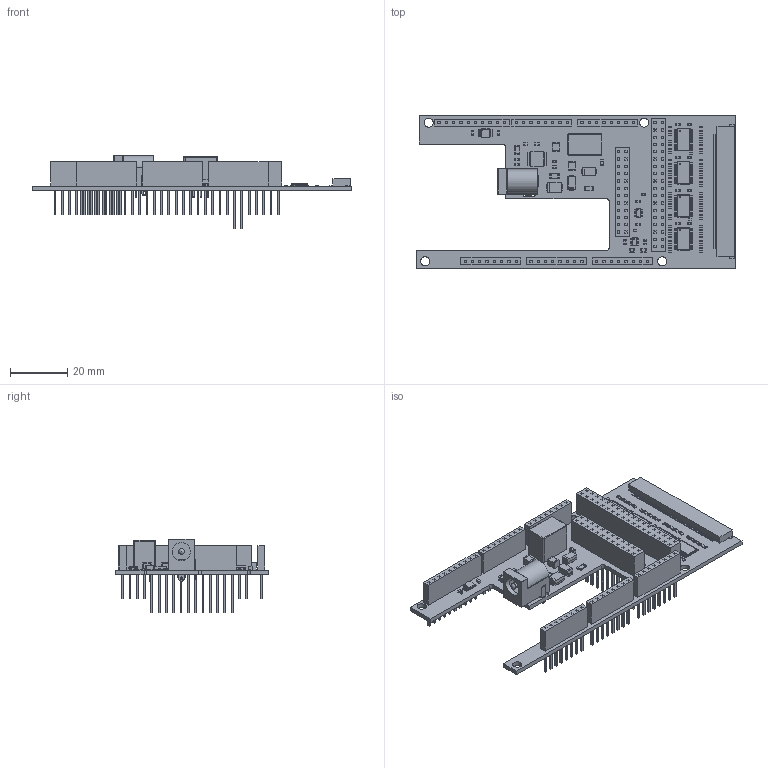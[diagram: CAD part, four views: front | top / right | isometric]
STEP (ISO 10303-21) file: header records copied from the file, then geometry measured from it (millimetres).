
FILE_DESCRIPTION(('KiCad electronic assembly'),'2;1');
FILE_NAME('giga-adapter.step','2026-10-22T11:57:18',('Pcbnew'),('Kicad') ,'Open CASCADE STEP processor 7.9','KiCad to STEP converter','Unknown' );
FILE_SCHEMA(('AUTOMOTIVE_DESIGN { 1 0 10303 214 1 1 1 1 }'));
Length unit declared in the file: millimetre
Products named in the file (50): giga-adapter 1; R_0402_1005Metric; D_SMA; C_1210_3225Metric; GIGA_J3_JDIGITAL; Open CASCADE STEP translator 7.9 7; C_0603_1608Metric; TSSOP-24_4.4x7.8mm_P0.65mm; R_0603_1608Metric; C_0805_2012Metric; VSSOP-8_3x3mm_P0.65mm; SOT-23-6; D_SMB; Converter_DCDC_TRACO_TSR-1_THT; Converter_DCDC_TRACO_TSR_1_THT; BarrelJack_Horizontal; GIGA_J4_JDIGITAL; Open CASCADE STEP translator 7.9 8; GIGA_J9_J5; Open CASCADE STEP translator 7.9 13; FH28H-80S; Open CASCADE STEP translator 7.9 1; GIGA_J8_JSIDE; Open CASCADE STEP translator 7.9 12; C_1206_3216Metric; GIGA_J5_JANALOG; Open CASCADE STEP translator 7.9 9; TPS26600-PWP0016A; Open CASCADE STEP translator 7.9 4; GIGA_J7_JANALOG; Open CASCADE STEP translator 7.9 11; GIGA_J6_JANALOG; Open CASCADE STEP translator 7.9 10; Fuse_1206_3216Metric; GIGA_J2_JDIGITAL; Open CASCADE STEP translator 7.9 6; giga-adapter_PCB
Assembly tree (141 placements, depth 3):
  giga-adapter 1
    R_0402_1005Metric  x65
      R_0402_1005Metric
    D_SMA  x2
      D_SMA
    C_1210_3225Metric  x2
      C_1210_3225Metric
    GIGA_J3_JDIGITAL
      Open CASCADE STEP translator 7.9 7
    C_0603_1608Metric  x15
      C_0603_1608Metric
    TSSOP-24_4.4x7.8mm_P0.65mm  x4
      TSSOP-24_4.4x7.8mm_P0.65mm
    R_0603_1608Metric  x6
      R_0603_1608Metric
    C_0805_2012Metric  x3
      C_0805_2012Metric
    VSSOP-8_3x3mm_P0.65mm
      VSSOP-8_3x3mm_P0.65mm
    SOT-23-6  x2
      SOT-23-6
    D_SMB
      D_SMB
    Converter_DCDC_TRACO_TSR-1_THT
      Converter_DCDC_TRACO_TSR_1_THT
    BarrelJack_Horizontal
      BarrelJack_Horizontal
    GIGA_J4_JDIGITAL
      Open CASCADE STEP translator 7.9 8
    GIGA_J9_J5
      Open CASCADE STEP translator 7.9 13
    FH28H-80S
      Open CASCADE STEP translator 7.9 1
    GIGA_J8_JSIDE
      Open CASCADE STEP translator 7.9 12
    C_1206_3216Metric
      C_1206_3216Metric
    GIGA_J5_JANALOG
      Open CASCADE STEP translator 7.9 9
    TPS26600-PWP0016A
      Open CASCADE STEP translator 7.9 4
    GIGA_J7_JANALOG
      Open CASCADE STEP translator 7.9 11
    GIGA_J6_JANALOG
      Open CASCADE STEP translator 7.9 10
    Fuse_1206_3216Metric  x2
      Fuse_1206_3216Metric
    GIGA_J2_JDIGITAL
      Open CASCADE STEP translator 7.9 6
    giga-adapter_PCB
Bounding box: 111 x 53.34 x 25.53 mm (x, y, z)
Volume: 14792.2 mm3; surface area: 25250.2 mm2
Topology: 330 solids, 330 shells, 6653 faces, 16614 edges, 10785 vertices
Faces by surface type: plane 5024, cylinder 1473, bspline 142, torus 7, sphere 5, extrusion 2
Full cylindrical faces by diameter (mm): 0.5 x3, 1 x5, 1.05 x110, 1.5 x2, 2 x2, 3.2 x4, 6.3 x1
Entity records: 95119 total; most frequent: CARTESIAN_POINT 15233, ORIENTED_EDGE 14120, DIRECTION 13962, EDGE_CURVE 7061, VECTOR 6142, LINE 6140, VERTEX_POINT 4629, AXIS2_PLACEMENT_3D 3910
